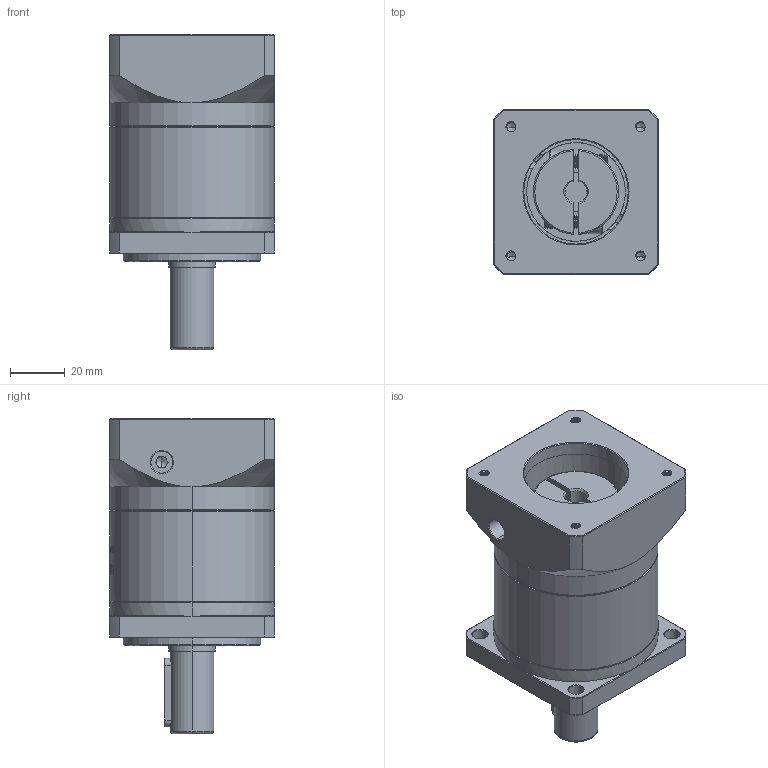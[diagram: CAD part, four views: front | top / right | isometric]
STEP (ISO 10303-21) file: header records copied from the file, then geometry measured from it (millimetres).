
FILE_DESCRIPTION (( 'STEP AP214' ), '1' );
FILE_NAME ('ZF060-D16-L1-P2-8-38.1-47.14X47.14-M4.step', '2023-08-16T04:26:40', ( '' ), ( '' ), 'SwSTEP 2.0', 'SolidWorks 2016', '' );
FILE_SCHEMA (( 'AUTOMOTIVE_DESIGN' ));
Length unit declared in the file: millimetre
Products named in the file (1): ZF060-D16-L1-P2-8-38.1-47.14X47.14-M4
Bounding box: 60 x 60 x 115 mm (x, y, z)
Volume: 227754.6 mm3; surface area: 43925.5 mm2
Topology: 6 solids, 6 shells, 1727 faces, 4678 edges, 3034 vertices
Faces by surface type: plane 794, bspline 354, cylinder 332, cone 229, torus 18
Entity records: 95971 total; most frequent: CARTESIAN_POINT 37662, ORIENTED_EDGE 9328, DIRECTION 6671, EDGE_CURVE 4664, VERTEX_POINT 3034, VECTOR 2367, LINE 2367, AXIS2_PLACEMENT_3D 2152
